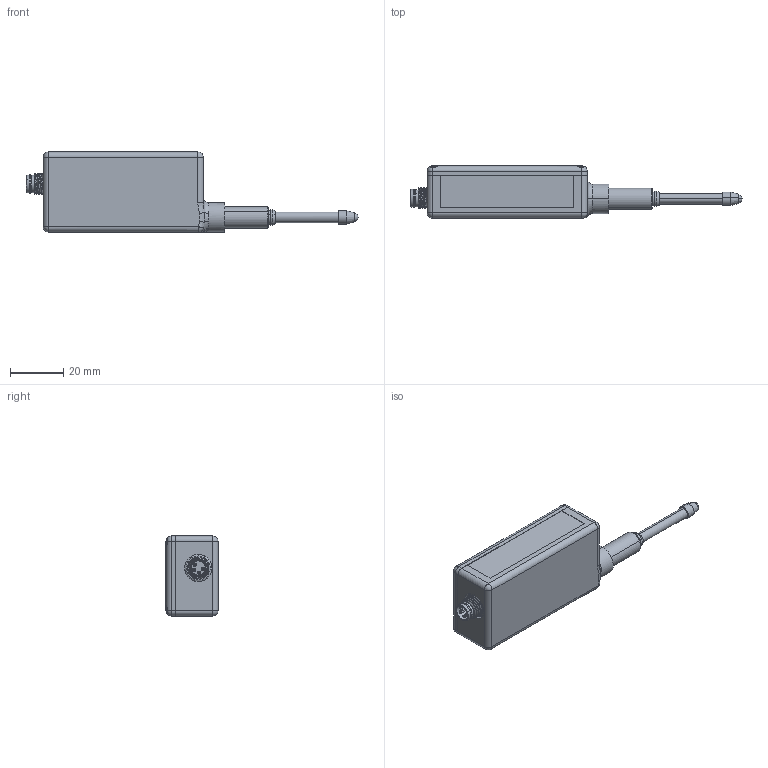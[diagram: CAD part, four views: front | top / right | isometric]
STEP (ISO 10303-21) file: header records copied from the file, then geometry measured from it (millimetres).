
FILE_DESCRIPTION (( 'STEP AP203' ), '1' );
FILE_NAME ('蚾饜极20.STEP', '2025-03-05T06:46:47', ( 'Windows 蚚誧' ), ( 'Organization' ), 'SwSTEP 2.0', 'SolidWorks 2024', '' );
FILE_SCHEMA (( 'CONFIG_CONTROL_DESIGN' ));
Length unit declared in the file: millimetre
Products named in the file (19): GT-H12上盖; 光源模块底座V3.8; 光栅光轴连接件v1.6.prt; CMOS支架V2.0; 光源绝缘套; GT-H12盒子V2.5; 光轴V2; 反射镜; 防尘套固定件V2.0; 棱镜; 限位垫圈; 光轴D2L6; 轴套; NEW测试头; 光轴导槽V2; 装配体20; 装配体22; f001m8-sa04spd0-01.stp; 测珠
Assembly tree (18 placements, depth 3):
  装配体20
    GT-H12盒子V2.5
    光轴D2L6
    光轴V2
    装配体22
      光源模块底座V3.8
      棱镜
      反射镜
      光源绝缘套
    光栅光轴连接件v1.6.prt
    f001m8-sa04spd0-01.stp
    限位垫圈
    CMOS支架V2.0
    GT-H12上盖
    光轴导槽V2
    防尘套固定件V2.0
    轴套
    测珠
    NEW测试头
Bounding box: 124.37 x 19.5 x 30 mm (x, y, z)
Volume: 17443.2 mm3; surface area: 23770.2 mm2
Topology: 25 solids, 25 shells, 1012 faces, 2598 edges, 1652 vertices
Faces by surface type: plane 411, cylinder 393, cone 134, bspline 38, sphere 19, torus 17
Entity records: 40039 total; most frequent: CARTESIAN_POINT 14870, ORIENTED_EDGE 5088, DIRECTION 4271, EDGE_CURVE 2544, VERTEX_POINT 1641, AXIS2_PLACEMENT_3D 1546, VECTOR 1179, LINE 1179
